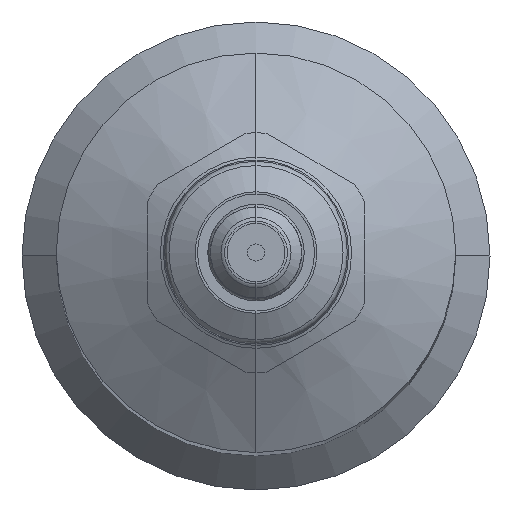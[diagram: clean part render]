
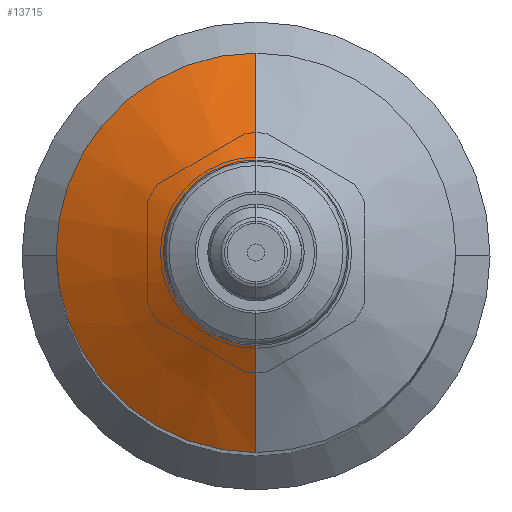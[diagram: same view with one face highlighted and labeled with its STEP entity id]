
A CAD part, top view. The second image highlights one B-rep face of the part: STEP entity #13715.
In plain terms, the highlighted conical face has half-angle 60 degrees and reference radius 35 mm.
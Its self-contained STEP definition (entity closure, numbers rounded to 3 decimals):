
#2964 = AXIS2_PLACEMENT_3D ( 'NONE', #6316, #6317, #6318 ) ;
#2965 = AXIS2_PLACEMENT_3D ( 'NONE', #6319, #6320, #6321 ) ;
#2966 = AXIS2_PLACEMENT_3D ( 'NONE', #6324, #6325, #6326 ) ;
#4304 = FACE_OUTER_BOUND ( 'NONE', #5503, .T. ) ;
#4310 = CONICAL_SURFACE ( 'NONE', #10943, 35., 1.047 ) ;
#5190 = CARTESIAN_POINT ( 'NONE',  ( 0., 35., 370.97 ) ) ;
#5191 = DIRECTION ( 'NONE',  ( 0., 0.866, -0.5 ) ) ;
#5503 = EDGE_LOOP ( 'NONE', ( #17647, #17656, #17646, #17642, #17645 ) ) ;
#6314 = CARTESIAN_POINT ( 'NONE',  ( 0., -35., 370.97 ) ) ;
#6315 = DIRECTION ( 'NONE',  ( 0., -0.866, -0.5 ) ) ;
#6316 = CARTESIAN_POINT ( 'NONE',  ( 0., 0., 381.8 ) ) ;
#6317 = DIRECTION ( 'NONE',  ( 0., 0., 1. ) ) ;
#6318 = DIRECTION ( 'NONE',  ( 0., 1., 0. ) ) ;
#6319 = CARTESIAN_POINT ( 'NONE',  ( 0., 0., 370.97 ) ) ;
#6320 = DIRECTION ( 'NONE',  ( 0., 0., 1. ) ) ;
#6321 = DIRECTION ( 'NONE',  ( 0., 1., 0. ) ) ;
#6324 = CARTESIAN_POINT ( 'NONE',  ( 0., 0., 370.97 ) ) ;
#6325 = DIRECTION ( 'NONE',  ( 0., 0., 1. ) ) ;
#6326 = DIRECTION ( 'NONE',  ( 0., 1., 0. ) ) ;
#10567 = CARTESIAN_POINT ( 'NONE',  ( 0., -35., 370.97 ) ) ;
#10582 = CARTESIAN_POINT ( 'NONE',  ( 0., 35., 370.97 ) ) ;
#10592 = CARTESIAN_POINT ( 'NONE',  ( 0., -16.241, 381.8 ) ) ;
#10593 = CARTESIAN_POINT ( 'NONE',  ( 0., 16.241, 381.8 ) ) ;
#10620 = CARTESIAN_POINT ( 'NONE',  ( -35., 0., 370.97 ) ) ;
#10943 = AXIS2_PLACEMENT_3D ( 'NONE', #18947, #18948, #18949 ) ;
#12716 = LINE ( 'NONE', #6314, #12717 ) ;
#12717 = VECTOR ( 'NONE', #6315, 1000. ) ;
#12718 = CIRCLE ( 'NONE', #2964, 16.241 ) ;
#12720 = CIRCLE ( 'NONE', #2965, 35. ) ;
#12722 = CIRCLE ( 'NONE', #2966, 35. ) ;
#12734 = LINE ( 'NONE', #5190, #12736 ) ;
#12736 = VECTOR ( 'NONE', #5191, 1000. ) ;
#13593 = VERTEX_POINT ( 'NONE', #10567 ) ;
#13608 = VERTEX_POINT ( 'NONE', #10582 ) ;
#13618 = VERTEX_POINT ( 'NONE', #10592 ) ;
#13619 = VERTEX_POINT ( 'NONE', #10593 ) ;
#13646 = VERTEX_POINT ( 'NONE', #10620 ) ;
#13715 = ADVANCED_FACE ( 'NONE', ( #4304 ), #4310, .T. ) ;
#17642 = ORIENTED_EDGE ( 'NONE', *, *, #18773, .T. ) ;
#17645 = ORIENTED_EDGE ( 'NONE', *, *, #18771, .F. ) ;
#17646 = ORIENTED_EDGE ( 'NONE', *, *, #18775, .T. ) ;
#17647 = ORIENTED_EDGE ( 'NONE', *, *, #18772, .F. ) ;
#17656 = ORIENTED_EDGE ( 'NONE', *, *, #18788, .T. ) ;
#18771 = EDGE_CURVE ( 'NONE', #13618, #13593, #12716, .T. ) ;
#18772 = EDGE_CURVE ( 'NONE', #13619, #13618, #12718, .T. ) ;
#18773 = EDGE_CURVE ( 'NONE', #13646, #13593, #12720, .T. ) ;
#18775 = EDGE_CURVE ( 'NONE', #13608, #13646, #12722, .T. ) ;
#18788 = EDGE_CURVE ( 'NONE', #13619, #13608, #12734, .T. ) ;
#18947 = CARTESIAN_POINT ( 'NONE',  ( 0., 0., 370.97 ) ) ;
#18948 = DIRECTION ( 'NONE',  ( 0., 0., -1. ) ) ;
#18949 = DIRECTION ( 'NONE',  ( 0., -1., 0. ) ) ;
